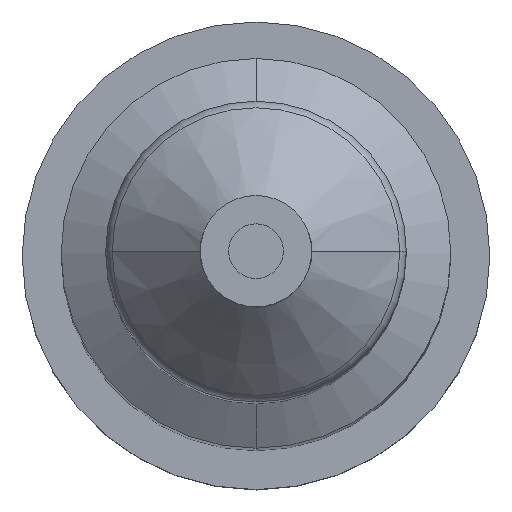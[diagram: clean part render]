
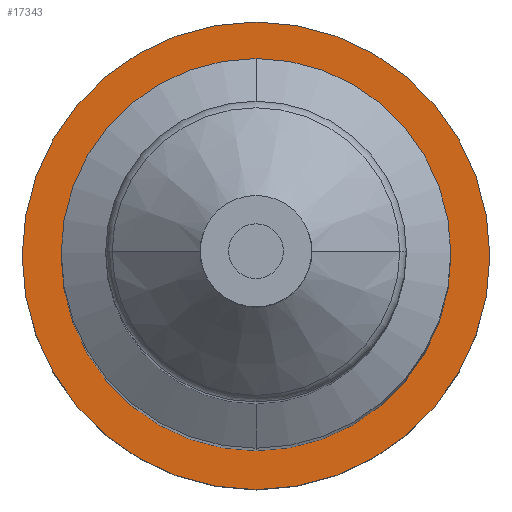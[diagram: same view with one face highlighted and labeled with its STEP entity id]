
A CAD part, top view. The second image highlights one B-rep face of the part: STEP entity #17343.
In plain terms, the highlighted planar face has unit normal (0, 0, 1).
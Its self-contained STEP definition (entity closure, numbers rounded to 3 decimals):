
#203 = DIRECTION ( 'NONE',  ( 0., 0., -1. ) ) ;
#1406 = PLANE ( 'NONE',  #12640 ) ;
#2617 = EDGE_LOOP ( 'NONE', ( #5701, #12150 ) ) ;
#3495 = VERTEX_POINT ( 'NONE', #23671 ) ;
#3528 = VERTEX_POINT ( 'NONE', #11538 ) ;
#5568 = CARTESIAN_POINT ( 'NONE',  ( 13.5, 0., 15. ) ) ;
#5701 = ORIENTED_EDGE ( 'NONE', *, *, #6214, .F. ) ;
#6120 = CIRCLE ( 'NONE', #8918, 17.5 ) ;
#6214 = EDGE_CURVE ( 'NONE', #9463, #3528, #12676, .T. ) ;
#6497 = DIRECTION ( 'NONE',  ( 1., 0., 0. ) ) ;
#8075 = CIRCLE ( 'NONE', #18969, 17.5 ) ;
#8918 = AXIS2_PLACEMENT_3D ( 'NONE', #18265, #24031, #14141 ) ;
#9119 = FACE_BOUND ( 'NONE', #15344, .T. ) ;
#9463 = VERTEX_POINT ( 'NONE', #25495 ) ;
#10738 = DIRECTION ( 'NONE',  ( 0., 0., -1. ) ) ;
#10826 = CIRCLE ( 'NONE', #17001, 21. ) ;
#10833 = ORIENTED_EDGE ( 'NONE', *, *, #23295, .F. ) ;
#11538 = CARTESIAN_POINT ( 'NONE',  ( -21., 0., 15. ) ) ;
#12150 = ORIENTED_EDGE ( 'NONE', *, *, #20661, .F. ) ;
#12452 = CARTESIAN_POINT ( 'NONE',  ( 0., 0., 15. ) ) ;
#12640 = AXIS2_PLACEMENT_3D ( 'NONE', #5568, #23894, #19829 ) ;
#12676 = CIRCLE ( 'NONE', #20178, 21. ) ;
#14047 = DIRECTION ( 'NONE',  ( -1., 0., 0. ) ) ;
#14141 = DIRECTION ( 'NONE',  ( -1., 0., 0. ) ) ;
#14747 = CARTESIAN_POINT ( 'NONE',  ( 0., 0., 15. ) ) ;
#15344 = EDGE_LOOP ( 'NONE', ( #17158, #10833 ) ) ;
#17001 = AXIS2_PLACEMENT_3D ( 'NONE', #14747, #10738, #21021 ) ;
#17158 = ORIENTED_EDGE ( 'NONE', *, *, #22693, .F. ) ;
#17343 = ADVANCED_FACE ( 'NONE', ( #9119, #18027 ), #1406, .T. ) ;
#18027 = FACE_OUTER_BOUND ( 'NONE', #2617, .T. ) ;
#18265 = CARTESIAN_POINT ( 'NONE',  ( 0., 0., 15. ) ) ;
#18969 = AXIS2_PLACEMENT_3D ( 'NONE', #22068, #20144, #14047 ) ;
#19829 = DIRECTION ( 'NONE',  ( -1., 0., 0. ) ) ;
#20144 = DIRECTION ( 'NONE',  ( 0., 0., 1. ) ) ;
#20178 = AXIS2_PLACEMENT_3D ( 'NONE', #12452, #203, #6497 ) ;
#20661 = EDGE_CURVE ( 'NONE', #3528, #9463, #10826, .T. ) ;
#21021 = DIRECTION ( 'NONE',  ( 1., 0., 0. ) ) ;
#22068 = CARTESIAN_POINT ( 'NONE',  ( 0., 0., 15. ) ) ;
#22693 = EDGE_CURVE ( 'NONE', #3495, #25227, #8075, .T. ) ;
#23295 = EDGE_CURVE ( 'NONE', #25227, #3495, #6120, .T. ) ;
#23671 = CARTESIAN_POINT ( 'NONE',  ( 0., 17.5, 15. ) ) ;
#23894 = DIRECTION ( 'NONE',  ( 0., 0., 1. ) ) ;
#24031 = DIRECTION ( 'NONE',  ( 0., 0., 1. ) ) ;
#24332 = CARTESIAN_POINT ( 'NONE',  ( 0., -17.5, 15. ) ) ;
#25227 = VERTEX_POINT ( 'NONE', #24332 ) ;
#25495 = CARTESIAN_POINT ( 'NONE',  ( 21., 0., 15. ) ) ;
